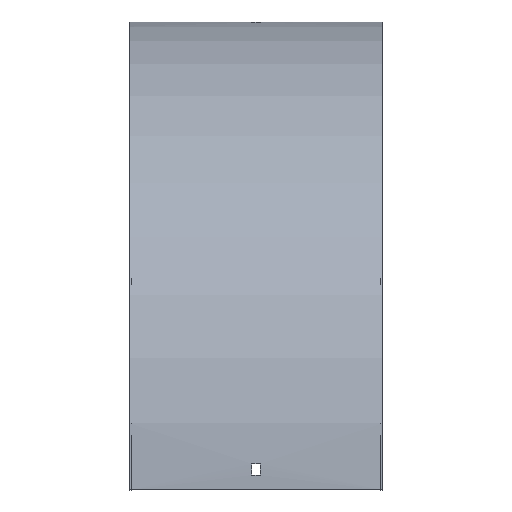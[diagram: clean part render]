
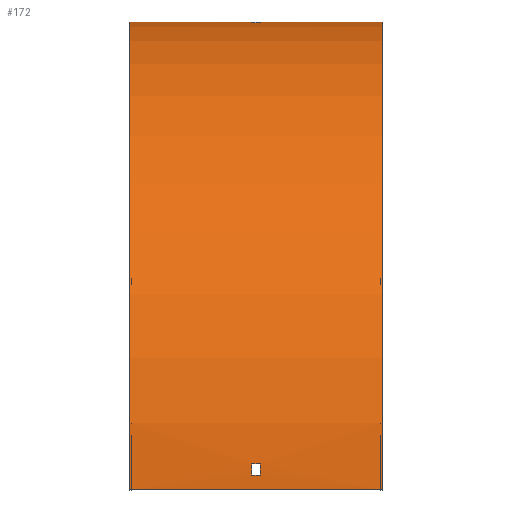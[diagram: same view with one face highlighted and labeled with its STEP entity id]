
A CAD part, top view. The second image highlights one B-rep face of the part: STEP entity #172.
In plain terms, the highlighted cylindrical face has radius 376.5 mm (diameter 753 mm), a partial arc.
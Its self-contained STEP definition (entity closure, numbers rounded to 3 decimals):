
#15 = DIRECTION ( 'NONE',  ( -1., 0., 0. ) ) ;
#20 = DIRECTION ( 'NONE',  ( 0., 0., -1. ) ) ;
#21 = AXIS2_PLACEMENT_3D ( 'NONE', #391, #15, #336 ) ;
#26 = DIRECTION ( 'NONE',  ( -1., 0., 0. ) ) ;
#32 = DIRECTION ( 'NONE',  ( 1., 0., 0. ) ) ;
#33 = DIRECTION ( 'NONE',  ( 0., 0., 1. ) ) ;
#36 = CIRCLE ( 'NONE', #231, 376.5 ) ;
#53 = VECTOR ( 'NONE', #458, 1000. ) ;
#57 = VERTEX_POINT ( 'NONE', #413 ) ;
#59 = AXIS2_PLACEMENT_3D ( 'NONE', #150, #397, #293 ) ;
#71 = ORIENTED_EDGE ( 'NONE', *, *, #327, .T. ) ;
#75 = CARTESIAN_POINT ( 'NONE',  ( 101.5, 0., 0. ) ) ;
#78 = LINE ( 'NONE', #269, #53 ) ;
#79 = ORIENTED_EDGE ( 'NONE', *, *, #466, .F. ) ;
#99 = DIRECTION ( 'NONE',  ( 1., 0., 0. ) ) ;
#101 = CARTESIAN_POINT ( 'NONE',  ( 3.25, -376.5, 0. ) ) ;
#106 = AXIS2_PLACEMENT_3D ( 'NONE', #351, #32, #585 ) ;
#115 = VECTOR ( 'NONE', #140, 1000. ) ;
#121 = DIRECTION ( 'NONE',  ( 0., 1., 0. ) ) ;
#127 = VERTEX_POINT ( 'NONE', #238 ) ;
#129 = FACE_BOUND ( 'NONE', #134, .T. ) ;
#132 = FACE_BOUND ( 'NONE', #393, .T. ) ;
#134 = EDGE_LOOP ( 'NONE', ( #295, #476, #437, #338 ) ) ;
#140 = DIRECTION ( 'NONE',  ( -1., 0., 0. ) ) ;
#150 = CARTESIAN_POINT ( 'NONE',  ( -101.5, -376.5, 0. ) ) ;
#153 = EDGE_CURVE ( 'NONE', #312, #520, #358, .T. ) ;
#155 = DIRECTION ( 'NONE',  ( 1., 0., 0. ) ) ;
#165 = VERTEX_POINT ( 'NONE', #222 ) ;
#172 = ADVANCED_FACE ( 'NONE', ( #506, #132, #129 ), #456, .T. ) ;
#183 = CARTESIAN_POINT ( 'NONE',  ( -101.5, 0., 0. ) ) ;
#186 = CARTESIAN_POINT ( 'NONE',  ( 101.5, -376.5, 376.5 ) ) ;
#198 = CARTESIAN_POINT ( 'NONE',  ( 3.25, -355.5, 375.914 ) ) ;
#208 = LINE ( 'NONE', #412, #318 ) ;
#217 = LINE ( 'NONE', #75, #489 ) ;
#222 = CARTESIAN_POINT ( 'NONE',  ( -3.25, -364.5, 376.309 ) ) ;
#224 = CARTESIAN_POINT ( 'NONE',  ( -101.5, -376.5, 376.5 ) ) ;
#230 = VERTEX_POINT ( 'NONE', #183 ) ;
#231 = AXIS2_PLACEMENT_3D ( 'NONE', #340, #388, #536 ) ;
#238 = CARTESIAN_POINT ( 'NONE',  ( 3.25, -364.5, 376.309 ) ) ;
#239 = CIRCLE ( 'NONE', #59, 376.5 ) ;
#241 = EDGE_CURVE ( 'NONE', #275, #538, #281, .T. ) ;
#242 = CARTESIAN_POINT ( 'NONE',  ( 3.25, -0.586, 21. ) ) ;
#259 = CARTESIAN_POINT ( 'NONE',  ( -3.25, -376.5, 0. ) ) ;
#269 = CARTESIAN_POINT ( 'NONE',  ( 101.5, -364.5, 376.309 ) ) ;
#275 = VERTEX_POINT ( 'NONE', #186 ) ;
#280 = CIRCLE ( 'NONE', #521, 376.5 ) ;
#281 = LINE ( 'NONE', #474, #115 ) ;
#286 = ORIENTED_EDGE ( 'NONE', *, *, #370, .T. ) ;
#288 = VECTOR ( 'NONE', #26, 1000. ) ;
#293 = DIRECTION ( 'NONE',  ( 0., 0., -1. ) ) ;
#295 = ORIENTED_EDGE ( 'NONE', *, *, #603, .F. ) ;
#306 = ORIENTED_EDGE ( 'NONE', *, *, #311, .T. ) ;
#309 = DIRECTION ( 'NONE',  ( -1., 0., 0. ) ) ;
#311 = EDGE_CURVE ( 'NONE', #534, #396, #472, .T. ) ;
#312 = VERTEX_POINT ( 'NONE', #198 ) ;
#318 = VECTOR ( 'NONE', #357, 1000. ) ;
#320 = CARTESIAN_POINT ( 'NONE',  ( 3.25, -0.191, 12. ) ) ;
#321 = CARTESIAN_POINT ( 'NONE',  ( 101.5, -376.5, 0. ) ) ;
#327 = EDGE_CURVE ( 'NONE', #579, #414, #36, .T. ) ;
#336 = DIRECTION ( 'NONE',  ( 0., 0., 1. ) ) ;
#338 = ORIENTED_EDGE ( 'NONE', *, *, #552, .F. ) ;
#340 = CARTESIAN_POINT ( 'NONE',  ( -3.25, -376.5, 0. ) ) ;
#351 = CARTESIAN_POINT ( 'NONE',  ( 101.5, -376.5, 0. ) ) ;
#354 = DIRECTION ( 'NONE',  ( 1., 0., 0. ) ) ;
#355 = CARTESIAN_POINT ( 'NONE',  ( 101.5, -355.5, 375.914 ) ) ;
#357 = DIRECTION ( 'NONE',  ( -1., 0., 0. ) ) ;
#358 = LINE ( 'NONE', #355, #288 ) ;
#367 = VECTOR ( 'NONE', #99, 1000. ) ;
#370 = EDGE_CURVE ( 'NONE', #230, #538, #239, .T. ) ;
#388 = DIRECTION ( 'NONE',  ( -1., 0., 0. ) ) ;
#389 = EDGE_CURVE ( 'NONE', #127, #312, #482, .T. ) ;
#391 = CARTESIAN_POINT ( 'NONE',  ( 3.25, -376.5, 0. ) ) ;
#393 = EDGE_LOOP ( 'NONE', ( #512, #71, #567, #306 ) ) ;
#395 = EDGE_CURVE ( 'NONE', #414, #534, #442, .T. ) ;
#396 = VERTEX_POINT ( 'NONE', #242 ) ;
#397 = DIRECTION ( 'NONE',  ( 1., 0., 0. ) ) ;
#401 = DIRECTION ( 'NONE',  ( -1., 0., 0. ) ) ;
#412 = CARTESIAN_POINT ( 'NONE',  ( 101.5, -0.586, 21. ) ) ;
#413 = CARTESIAN_POINT ( 'NONE',  ( 101.5, 0., 0. ) ) ;
#414 = VERTEX_POINT ( 'NONE', #578 ) ;
#418 = AXIS2_PLACEMENT_3D ( 'NONE', #101, #155, #20 ) ;
#430 = ORIENTED_EDGE ( 'NONE', *, *, #532, .T. ) ;
#437 = ORIENTED_EDGE ( 'NONE', *, *, #389, .F. ) ;
#442 = LINE ( 'NONE', #528, #367 ) ;
#447 = EDGE_LOOP ( 'NONE', ( #286, #541, #79, #430 ) ) ;
#450 = AXIS2_PLACEMENT_3D ( 'NONE', #321, #309, #33 ) ;
#456 = CYLINDRICAL_SURFACE ( 'NONE', #450, 376.5 ) ;
#458 = DIRECTION ( 'NONE',  ( 1., 0., 0. ) ) ;
#466 = EDGE_CURVE ( 'NONE', #57, #275, #510, .T. ) ;
#472 = CIRCLE ( 'NONE', #418, 376.5 ) ;
#474 = CARTESIAN_POINT ( 'NONE',  ( 101.5, -376.5, 376.5 ) ) ;
#476 = ORIENTED_EDGE ( 'NONE', *, *, #153, .F. ) ;
#482 = CIRCLE ( 'NONE', #21, 376.5 ) ;
#489 = VECTOR ( 'NONE', #401, 1000. ) ;
#506 = FACE_OUTER_BOUND ( 'NONE', #447, .T. ) ;
#509 = CARTESIAN_POINT ( 'NONE',  ( -3.25, -355.5, 375.914 ) ) ;
#510 = CIRCLE ( 'NONE', #106, 376.5 ) ;
#512 = ORIENTED_EDGE ( 'NONE', *, *, #529, .T. ) ;
#520 = VERTEX_POINT ( 'NONE', #509 ) ;
#521 = AXIS2_PLACEMENT_3D ( 'NONE', #259, #354, #121 ) ;
#528 = CARTESIAN_POINT ( 'NONE',  ( 101.5, -0.191, 12. ) ) ;
#529 = EDGE_CURVE ( 'NONE', #396, #579, #208, .T. ) ;
#532 = EDGE_CURVE ( 'NONE', #57, #230, #217, .T. ) ;
#534 = VERTEX_POINT ( 'NONE', #320 ) ;
#536 = DIRECTION ( 'NONE',  ( 0., 0., 1. ) ) ;
#538 = VERTEX_POINT ( 'NONE', #224 ) ;
#541 = ORIENTED_EDGE ( 'NONE', *, *, #241, .F. ) ;
#552 = EDGE_CURVE ( 'NONE', #165, #127, #78, .T. ) ;
#561 = CARTESIAN_POINT ( 'NONE',  ( -3.25, -0.586, 21. ) ) ;
#567 = ORIENTED_EDGE ( 'NONE', *, *, #395, .T. ) ;
#578 = CARTESIAN_POINT ( 'NONE',  ( -3.25, -0.191, 12. ) ) ;
#579 = VERTEX_POINT ( 'NONE', #561 ) ;
#585 = DIRECTION ( 'NONE',  ( 0., 0., -1. ) ) ;
#603 = EDGE_CURVE ( 'NONE', #520, #165, #280, .T. ) ;
